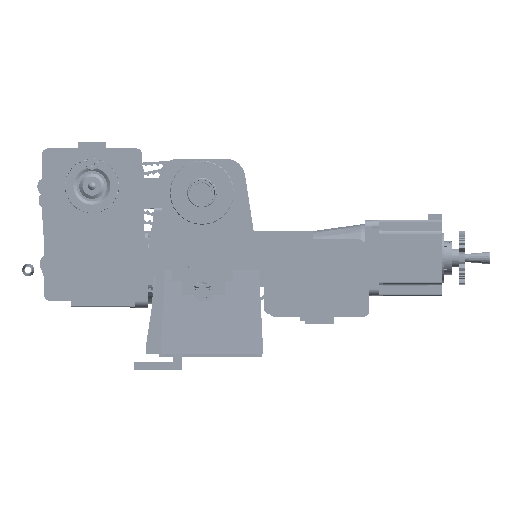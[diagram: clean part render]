
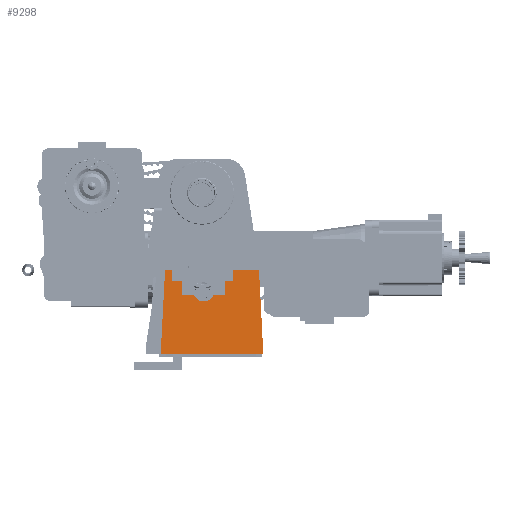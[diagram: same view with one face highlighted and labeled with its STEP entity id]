
A CAD part, left-side view. The second image highlights one B-rep face of the part: STEP entity #9298.
In plain terms, the highlighted planar face has unit normal (-0.999, 0, 0.052).
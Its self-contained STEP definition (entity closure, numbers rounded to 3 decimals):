
#9298 = ADVANCED_FACE( '', ( #20425 ), #20426, .T. );
#20425 = FACE_OUTER_BOUND( '', #114456, .T. );
#20426 = PLANE( '', #114457 );
#114456 = EDGE_LOOP( '', ( #157326, #157327, #157328, #157329, #157330, #157331, #157332, #157333, #157334, #157335, #157336, #157337, #157338, #157339 ) );
#114457 = AXIS2_PLACEMENT_3D( '', #157340, #157341, #157342 );
#157326 = ORIENTED_EDGE( '', *, *, #171515, .T. );
#157327 = ORIENTED_EDGE( '', *, *, #171532, .T. );
#157328 = ORIENTED_EDGE( '', *, *, #171533, .T. );
#157329 = ORIENTED_EDGE( '', *, *, #171534, .T. );
#157330 = ORIENTED_EDGE( '', *, *, #171535, .T. );
#157331 = ORIENTED_EDGE( '', *, *, #171536, .T. );
#157332 = ORIENTED_EDGE( '', *, *, #171537, .T. );
#157333 = ORIENTED_EDGE( '', *, *, #171270, .T. );
#157334 = ORIENTED_EDGE( '', *, *, #171538, .T. );
#157335 = ORIENTED_EDGE( '', *, *, #171495, .T. );
#157336 = ORIENTED_EDGE( '', *, *, #171539, .T. );
#157337 = ORIENTED_EDGE( '', *, *, #171540, .T. );
#157338 = ORIENTED_EDGE( '', *, *, #171541, .T. );
#157339 = ORIENTED_EDGE( '', *, *, #171542, .T. );
#157340 = CARTESIAN_POINT( '', ( -41.885, 0., 0. ) );
#157341 = DIRECTION( '', ( -0.999, 0., 0.052 ) );
#157342 = DIRECTION( '', ( 0.052, 0., 0.999 ) );
#171270 = EDGE_CURVE( '', #193465, #193469, #193471, .F. );
#171495 = EDGE_CURVE( '', #193843, #193849, #193851, .F. );
#171515 = EDGE_CURVE( '', #193876, #193874, #193877, .F. );
#171532 = EDGE_CURVE( '', #193874, #193901, #193902, .F. );
#171533 = EDGE_CURVE( '', #193901, #193903, #193904, .F. );
#171534 = EDGE_CURVE( '', #193903, #193905, #193906, .F. );
#171535 = EDGE_CURVE( '', #193905, #193907, #193908, .F. );
#171536 = EDGE_CURVE( '', #193907, #193909, #193910, .F. );
#171537 = EDGE_CURVE( '', #193909, #193465, #193911, .F. );
#171538 = EDGE_CURVE( '', #193469, #193843, #193912, .F. );
#171539 = EDGE_CURVE( '', #193849, #193913, #193914, .F. );
#171540 = EDGE_CURVE( '', #193913, #193915, #193916, .F. );
#171541 = EDGE_CURVE( '', #193915, #193917, #193918, .F. );
#171542 = EDGE_CURVE( '', #193917, #193876, #193919, .F. );
#193465 = VERTEX_POINT( '', #264638 );
#193469 = VERTEX_POINT( '', #264680 );
#193471 = ELLIPSE( '', #264683, 7.948, 7.938 );
#193843 = VERTEX_POINT( '', #265447 );
#193849 = VERTEX_POINT( '', #265456 );
#193851 = LINE( '', #265459, #265460 );
#193874 = VERTEX_POINT( '', #265496 );
#193876 = VERTEX_POINT( '', #265499 );
#193877 = LINE( '', #265500, #265501 );
#193901 = VERTEX_POINT( '', #265535 );
#193902 = LINE( '', #265536, #265537 );
#193903 = VERTEX_POINT( '', #265538 );
#193904 = LINE( '', #265539, #265540 );
#193905 = VERTEX_POINT( '', #265541 );
#193906 = LINE( '', #265542, #265543 );
#193907 = VERTEX_POINT( '', #265544 );
#193908 = LINE( '', #265545, #265546 );
#193909 = VERTEX_POINT( '', #265547 );
#193910 = LINE( '', #265548, #265549 );
#193911 = LINE( '', #265550, #265551 );
#193912 = LINE( '', #265552, #265553 );
#193913 = VERTEX_POINT( '', #265554 );
#193914 = LINE( '', #265555, #265556 );
#193915 = VERTEX_POINT( '', #265557 );
#193916 = LINE( '', #265558, #265559 );
#193917 = VERTEX_POINT( '', #265560 );
#193918 = LINE( '', #265561, #265562 );
#193919 = LINE( '', #265563, #265564 );
#264638 = CARTESIAN_POINT( '', ( -41.655, -1.035, 4.378 ) );
#264680 = CARTESIAN_POINT( '', ( -41.655, 13.481, 4.378 ) );
#264683 = AXIS2_PLACEMENT_3D( '', #283246, #283247, #283248 );
#265447 = CARTESIAN_POINT( '', ( -41.655, 22.416, 4.378 ) );
#265456 = CARTESIAN_POINT( '', ( -41.083, 22.416, 15.3 ) );
#265459 = CARTESIAN_POINT( '', ( -40.856, 22.416, 19.636 ) );
#265460 = VECTOR( '', #283590, 1000. );
#265496 = CARTESIAN_POINT( '', ( -43.993, -38.862, -40.224 ) );
#265499 = CARTESIAN_POINT( '', ( -43.993, 38.862, -40.224 ) );
#265500 = CARTESIAN_POINT( '', ( -43.993, 34.106, -40.224 ) );
#265501 = VECTOR( '', #283617, 1000. );
#265535 = CARTESIAN_POINT( '', ( -40.655, -35.525, 23.453 ) );
#265536 = CARTESIAN_POINT( '', ( -43.758, -38.627, -35.748 ) );
#265537 = VECTOR( '', #283646, 1000. );
#265538 = CARTESIAN_POINT( '', ( -40.655, -15.573, 23.453 ) );
#265539 = CARTESIAN_POINT( '', ( -40.655, -35.525, 23.453 ) );
#265540 = VECTOR( '', #283647, 1000. );
#265541 = CARTESIAN_POINT( '', ( -41.083, -15.573, 15.3 ) );
#265542 = CARTESIAN_POINT( '', ( -40.429, -15.573, 27.767 ) );
#265543 = VECTOR( '', #283648, 1000. );
#265544 = CARTESIAN_POINT( '', ( -41.083, -9.969, 15.3 ) );
#265545 = CARTESIAN_POINT( '', ( -41.083, -9.969, 15.3 ) );
#265546 = VECTOR( '', #283649, 1000. );
#265547 = CARTESIAN_POINT( '', ( -41.655, -9.969, 4.378 ) );
#265548 = CARTESIAN_POINT( '', ( -41.426, -9.969, 8.744 ) );
#265549 = VECTOR( '', #283650, 1000. );
#265550 = CARTESIAN_POINT( '', ( -41.655, -1.035, 4.378 ) );
#265551 = VECTOR( '', #283651, 1000. );
#265552 = CARTESIAN_POINT( '', ( -41.655, 22.416, 4.378 ) );
#265553 = VECTOR( '', #283652, 1000. );
#265554 = CARTESIAN_POINT( '', ( -41.083, 29.994, 15.3 ) );
#265555 = CARTESIAN_POINT( '', ( -41.083, 22.416, 15.3 ) );
#265556 = VECTOR( '', #283653, 1000. );
#265557 = CARTESIAN_POINT( '', ( -40.655, 29.994, 23.453 ) );
#265558 = CARTESIAN_POINT( '', ( -40.429, 29.994, 27.767 ) );
#265559 = VECTOR( '', #283654, 1000. );
#265560 = CARTESIAN_POINT( '', ( -40.655, 35.525, 23.453 ) );
#265561 = CARTESIAN_POINT( '', ( -40.655, 29.994, 23.453 ) );
#265562 = VECTOR( '', #283655, 1000. );
#265563 = CARTESIAN_POINT( '', ( -40.43, 35.299, 27.755 ) );
#265564 = VECTOR( '', #283656, 1000. );
#283246 = CARTESIAN_POINT( '', ( -41.487, 6.223, 7.591 ) );
#283247 = DIRECTION( '', ( -0.999, 0., 0.052 ) );
#283248 = DIRECTION( '', ( -0.052, 0., -0.999 ) );
#283590 = DIRECTION( '', ( -0.052, 0., -0.999 ) );
#283617 = DIRECTION( '', ( 0., 1., 0. ) );
#283646 = DIRECTION( '', ( -0.052, -0.052, -0.997 ) );
#283647 = DIRECTION( '', ( 0., -1., 0. ) );
#283648 = DIRECTION( '', ( 0.052, 0., 0.999 ) );
#283649 = DIRECTION( '', ( 0., -1., 0. ) );
#283650 = DIRECTION( '', ( 0.052, 0., 0.999 ) );
#283651 = DIRECTION( '', ( 0., -1., 0. ) );
#283652 = DIRECTION( '', ( 0., -1., 0. ) );
#283653 = DIRECTION( '', ( 0., -1., 0. ) );
#283654 = DIRECTION( '', ( -0.052, 0., -0.999 ) );
#283655 = DIRECTION( '', ( 0., -1., 0. ) );
#283656 = DIRECTION( '', ( 0.052, -0.052, 0.997 ) );
